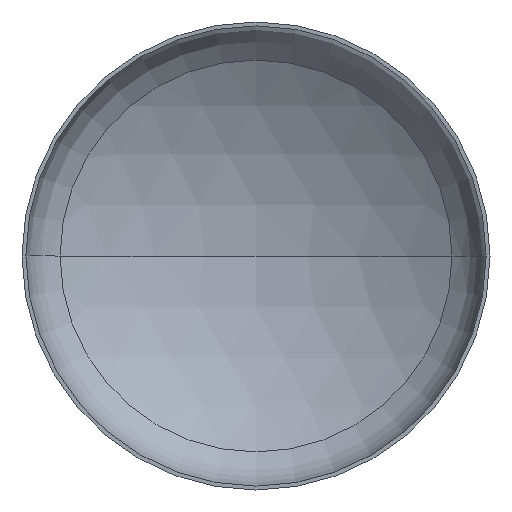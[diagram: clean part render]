
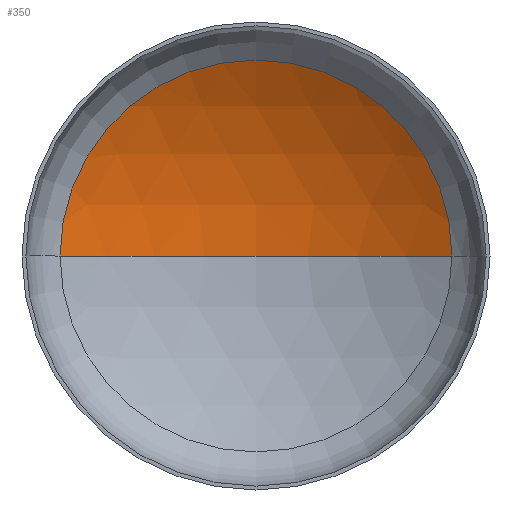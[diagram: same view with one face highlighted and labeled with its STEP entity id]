
A CAD part, front view. The second image highlights one B-rep face of the part: STEP entity #350.
In plain terms, the highlighted spherical face has radius 2400 mm.
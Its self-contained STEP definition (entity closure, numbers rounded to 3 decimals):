
#3 = AXIS2_PLACEMENT_3D ( 'NONE', #397, #198, #355 ) ;
#5 = ORIENTED_EDGE ( 'NONE', *, *, #341, .T. ) ;
#28 = AXIS2_PLACEMENT_3D ( 'NONE', #324, #306, #125 ) ;
#35 = VERTEX_POINT ( 'NONE', #221 ) ;
#38 = AXIS2_PLACEMENT_3D ( 'NONE', #59, #166, #170 ) ;
#43 = VERTEX_POINT ( 'NONE', #255 ) ;
#46 = AXIS2_PLACEMENT_3D ( 'NONE', #327, #197, #288 ) ;
#52 = ORIENTED_EDGE ( 'NONE', *, *, #340, .T. ) ;
#59 = CARTESIAN_POINT ( 'NONE',  ( 0., -1578.292, 0. ) ) ;
#69 = ORIENTED_EDGE ( 'NONE', *, *, #389, .F. ) ;
#79 = VERTEX_POINT ( 'NONE', #211 ) ;
#87 = EDGE_LOOP ( 'NONE', ( #69, #5, #52 ) ) ;
#125 = DIRECTION ( 'NONE',  ( -1., 0., 0. ) ) ;
#157 = CIRCLE ( 'NONE', #38, 2400. ) ;
#166 = DIRECTION ( 'NONE',  ( 0., 0., -1. ) ) ;
#170 = DIRECTION ( 'NONE',  ( -1., 0., 0. ) ) ;
#197 = DIRECTION ( 'NONE',  ( 0., -1., 0. ) ) ;
#198 = DIRECTION ( 'NONE',  ( 0., 0., 1. ) ) ;
#211 = CARTESIAN_POINT ( 'NONE',  ( 1255.67, 467.018, 0. ) ) ;
#221 = CARTESIAN_POINT ( 'NONE',  ( 0., 821.708, 0. ) ) ;
#225 = CIRCLE ( 'NONE', #46, 1255.67 ) ;
#255 = CARTESIAN_POINT ( 'NONE',  ( -1255.67, 467.018, 0. ) ) ;
#275 = SPHERICAL_SURFACE ( 'NONE', #28, 2400. ) ;
#288 = DIRECTION ( 'NONE',  ( 1., 0., 0. ) ) ;
#306 = DIRECTION ( 'NONE',  ( 0., 0., -1. ) ) ;
#314 = CIRCLE ( 'NONE', #3, 2400. ) ;
#324 = CARTESIAN_POINT ( 'NONE',  ( 0., -1578.292, 0. ) ) ;
#327 = CARTESIAN_POINT ( 'NONE',  ( 0., 467.018, 0. ) ) ;
#340 = EDGE_CURVE ( 'NONE', #79, #43, #225, .T. ) ;
#341 = EDGE_CURVE ( 'NONE', #35, #79, #157, .T. ) ;
#350 = ADVANCED_FACE ( 'NONE', ( #394 ), #275, .F. ) ;
#355 = DIRECTION ( 'NONE',  ( 1., 0., 0. ) ) ;
#389 = EDGE_CURVE ( 'NONE', #35, #43, #314, .T. ) ;
#394 = FACE_OUTER_BOUND ( 'NONE', #87, .T. ) ;
#397 = CARTESIAN_POINT ( 'NONE',  ( 0., -1578.292, 0. ) ) ;
